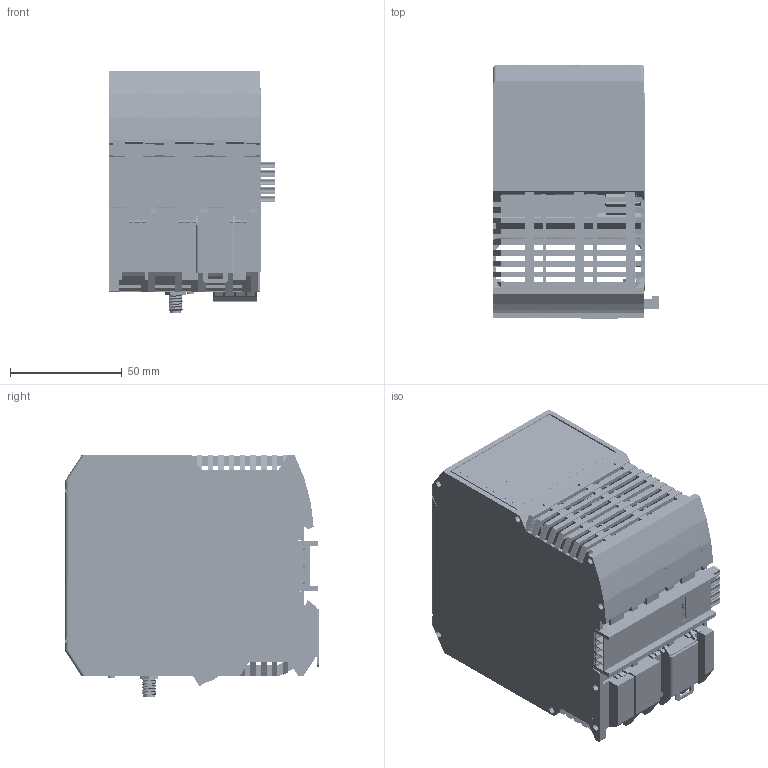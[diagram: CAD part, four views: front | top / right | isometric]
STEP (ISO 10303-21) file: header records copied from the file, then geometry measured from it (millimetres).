
FILE_DESCRIPTION(/* description */ (''),/* implementation_level */ '2;1');
FILE_NAME(/* name */ 'C:/Temp/STEP/FX-3000-C_V100.step',/* time_stamp */ '2020-04-03T13:48:03+03:00',/* author */ (''),/* organization */ (''),/* preprocessor_version */ 'ST-DEVELOPER v18',/* originating_system */ 'Autodesk Translation Framework v8.12.0.6',/* authorisation */ '');
FILE_SCHEMA (('AUTOMOTIVE_DESIGN { 1 0 10303 214 3 1 1 }'));
Products named in the file (1): FX-3000-C_V100
Bounding box: 74.4 x 113.7 x 108.1 mm (x, y, z)
Volume: 128406.5 mm3; surface area: 195851.4 mm2
Topology: 678 solids, 681 shells, 19384 faces, 53539 edges, 35509 vertices
Faces by surface type: plane 9482, cylinder 8871, bspline 931, sphere 44, torus 42, cone 14
Full cylindrical faces by diameter (mm): 0.62 x1, 0.8 x9, 0.95 x1, 1 x9, 1.2 x4, 1.35 x6, 1.4 x18, 1.6 x31, 1.95 x1, 2 x1, 2.2 x2, 2.8 x8, 3 x17, 3.5 x2, 3.783 x4, 4 x7, 4.5 x1, 4.745 x1, 4.75 x1, 5.2 x2, 5.459 x13, 6.325 x1, 6.452 x1, 6.5 x1, 7.389 x2
Entity records: 726155 total; most frequent: CARTESIAN_POINT 199531, ORIENTED_EDGE 106874, DIRECTION 106581, EDGE_CURVE 53527, AXIS2_PLACEMENT_3D 36709, VERTEX_POINT 35508, LINE 33163, VECTOR 33163
